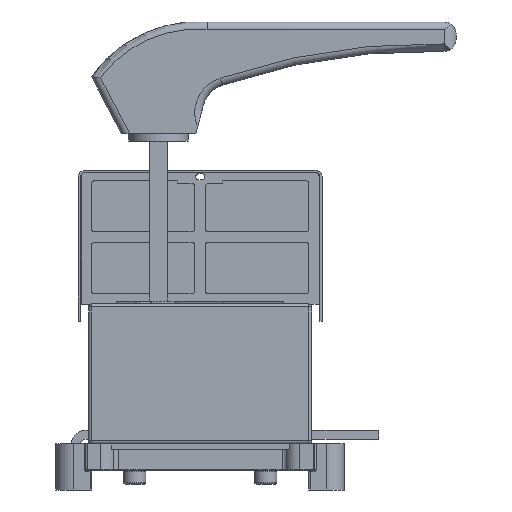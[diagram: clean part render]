
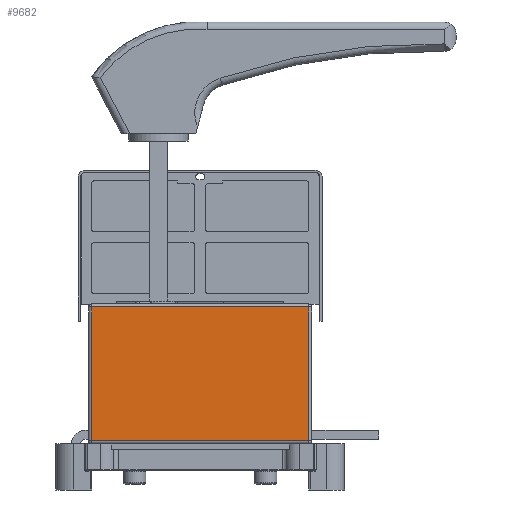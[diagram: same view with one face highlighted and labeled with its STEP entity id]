
A CAD part, left-side view. The second image highlights one B-rep face of the part: STEP entity #9682.
In plain terms, the highlighted planar face has unit normal (-1, 0, 0).
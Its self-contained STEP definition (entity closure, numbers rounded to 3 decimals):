
#2954=LINE('',#51363,#5750);
#2959=LINE('',#51384,#5755);
#2962=LINE('',#51407,#5758);
#2969=LINE('',#51417,#5765);
#5750=VECTOR('',#39513,1.);
#5755=VECTOR('',#39538,1.);
#5758=VECTOR('',#39567,1.);
#5765=VECTOR('',#39580,1.);
#6708=PLANE('',#31635);
#8114=FACE_OUTER_BOUND('',#12547,.T.);
#9682=ADVANCED_FACE('',(#8114),#6708,.F.);
#12547=EDGE_LOOP('',(#20064,#20065,#20066,#20067));
#20064=ORIENTED_EDGE('',*,*,#27675,.T.);
#20065=ORIENTED_EDGE('',*,*,#27657,.T.);
#20066=ORIENTED_EDGE('',*,*,#27668,.T.);
#20067=ORIENTED_EDGE('',*,*,#27646,.T.);
#23650=VERTEX_POINT('',#51349);
#23654=VERTEX_POINT('',#51360);
#23659=VERTEX_POINT('',#51377);
#23660=VERTEX_POINT('',#51381);
#27646=EDGE_CURVE('',#23654,#23650,#2954,.T.);
#27657=EDGE_CURVE('',#23660,#23659,#2959,.T.);
#27668=EDGE_CURVE('',#23659,#23654,#2962,.T.);
#27675=EDGE_CURVE('',#23650,#23660,#2969,.T.);
#31635=AXIS2_PLACEMENT_3D('',#51470,#39625,#39626);
#39513=DIRECTION('',(0.,1.,0.));
#39538=DIRECTION('',(0.,-1.,0.));
#39567=DIRECTION('',(0.,0.,1.));
#39580=DIRECTION('',(0.,0.,-1.));
#39625=DIRECTION('',(1.,0.,0.));
#39626=DIRECTION('',(0.,1.,0.));
#51349=CARTESIAN_POINT('',(-150.,73.,92.));
#51360=CARTESIAN_POINT('',(-150.,-73.,92.));
#51363=CARTESIAN_POINT('',(-150.,73.,92.));
#51377=CARTESIAN_POINT('',(-150.,-73.,2.));
#51381=CARTESIAN_POINT('',(-150.,73.,2.));
#51384=CARTESIAN_POINT('',(-150.,75.,2.));
#51407=CARTESIAN_POINT('',(-150.,-73.,94.));
#51417=CARTESIAN_POINT('',(-150.,73.,94.));
#51470=CARTESIAN_POINT('',(-150.,75.,94.));
